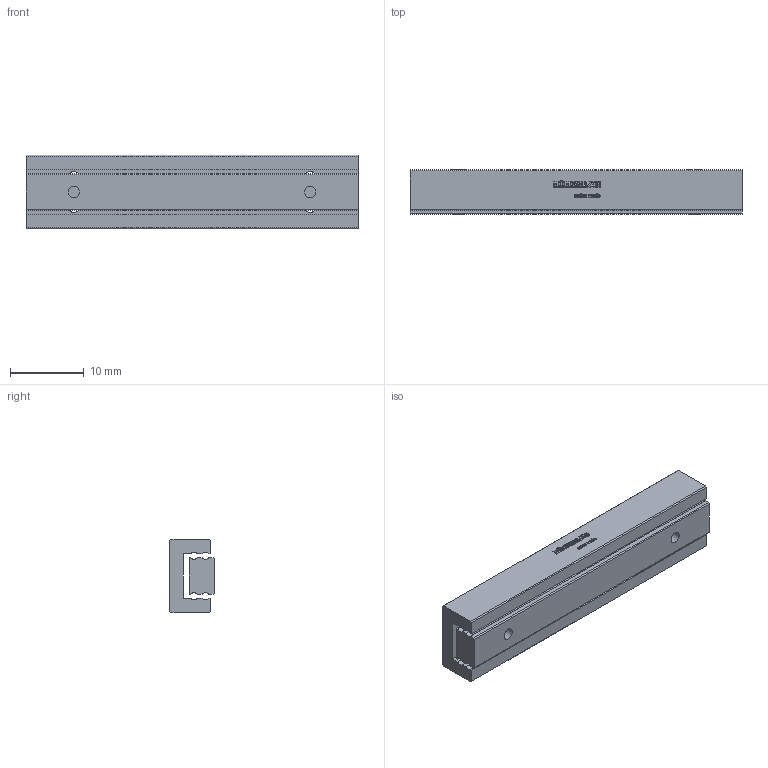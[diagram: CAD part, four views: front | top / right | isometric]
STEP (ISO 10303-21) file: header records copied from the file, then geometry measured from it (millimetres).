
FILE_DESCRIPTION(/* description */ ('STEP AP214'),/* implementation_level */ '2;1');
FILE_NAME(/* name */ 'MSK 5-45.35(0)',/* time_stamp */ '2025-04-16T16:52:33+02:00',/* author */ ('License CC BY-ND 4.0'),/* organization */ ('CADENAS'),/* preprocessor_version */ 'ST-DEVELOPER v19.3',/* originating_system */ 'PARTsolutions',/* authorisation */ ' ');
FILE_SCHEMA (('AUTOMOTIVE_DESIGN {1 0 10303 214 3 1 1}'));
Length unit declared in the file: millimetre
Products named in the file (3): MSK 5-45.35(0); MSK 5-45.35_1; MSK 5-45.35_2
Assembly tree (2 placements, depth 2):
  MSK 5-45.35(0)
    MSK 5-45.35_1
    MSK 5-45.35_2
Bounding box: 45 x 6 x 10 mm (x, y, z)
Volume: 2154.5 mm3; surface area: 2679 mm2
Topology: 2 solids, 2 shells, 513 faces, 1442 edges, 960 vertices
Faces by surface type: cylinder 306, plane 203, cone 4
Full cylindrical faces by diameter (mm): 1.567 x6
Entity records: 16849 total; most frequent: DIRECTION 3080, CARTESIAN_POINT 2908, ORIENTED_EDGE 2864, EDGE_CURVE 1432, AXIS2_PLACEMENT_3D 1132, VERTEX_POINT 960, LINE 816, VECTOR 816
